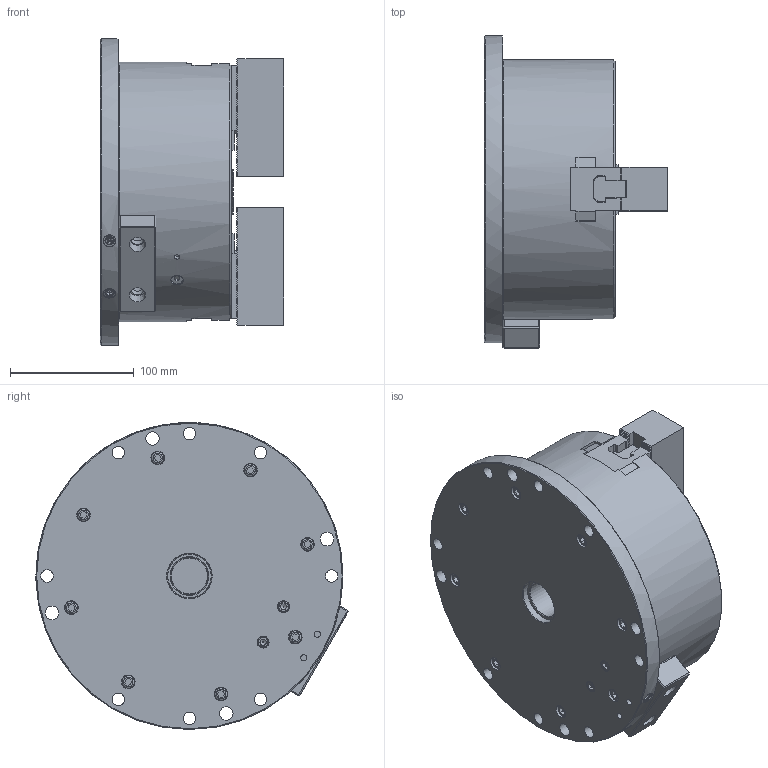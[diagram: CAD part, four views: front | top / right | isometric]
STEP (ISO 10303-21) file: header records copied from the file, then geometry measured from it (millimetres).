
FILE_DESCRIPTION (( 'STEP AP214' ), '1' );
FILE_NAME ('AT08_61P257225-0_OC.STEP', '2020-03-19T07:49:16', ( '' ), ( '' ), 'SwSTEP 2.0', 'SolidWorks 2017', '' );
FILE_SCHEMA (( 'AUTOMOTIVE_DESIGN' ));
Length unit declared in the file: millimetre
Products named in the file (14): B傾僫僣僉 M12亊352_~35; 61P314548-4_SOFT_JAW; AT08_61P257225-0_OC; 61P314548-4_SOFT_JAW_蹬怮椔; Part4^61P257225_AT08_ASSY_蹬怮椔; Part4^61P257225_AT08_ASSY; 61P400744_TNUT; B傾僫僣僉 M12亊352_~35_棉太倌TI佱UA; 61P400744_TNUT_蹬怮椔
Assembly tree (9 placements, depth 2):
  B傾僫僣僉 M12亊352_~35
  61P314548-4_SOFT_JAW
  AT08_61P257225-0_OC
    61P314548-4_SOFT_JAW_蹬怮椔  x2
    61P400744_TNUT_蹬怮椔  x2
    B傾僫僣僉 M12亊352_~35_棉太倌TI佱UA  x4
    Part4^61P257225_AT08_ASSY_蹬怮椔
  Part4^61P257225_AT08_ASSY
  B傾僫僣僉 M12亊352_~35
Bounding box: 148.2 x 252.19 x 248 mm (x, y, z)
Volume: 4054827.2 mm3; surface area: 279966 mm2
Topology: 9 solids, 31 shells, 2957 faces, 8205 edges, 5415 vertices
Faces by surface type: plane 1915, cylinder 859, cone 99, bspline 79, torus 3, sphere 2
Full cylindrical faces by diameter (mm): 1.9 x1, 3.4 x4, 4 x1, 5 x2, 6 x8, 6.6 x2, 6.8 x4, 8.5 x4, 9.5 x4, 10 x21, 10.7 x2, 11 x14, 12 x8, 13 x4, 15 x1, 18 x4, 19 x4, 30 x1, 36 x1, 37 x1, 210 x1, 248 x1
Entity records: 72968 total; most frequent: CARTESIAN_POINT 16193, ORIENTED_EDGE 11826, DIRECTION 11345, EDGE_CURVE 5913, VECTOR 4357, LINE 4357, VERTEX_POINT 3962, AXIS2_PLACEMENT_3D 3494
